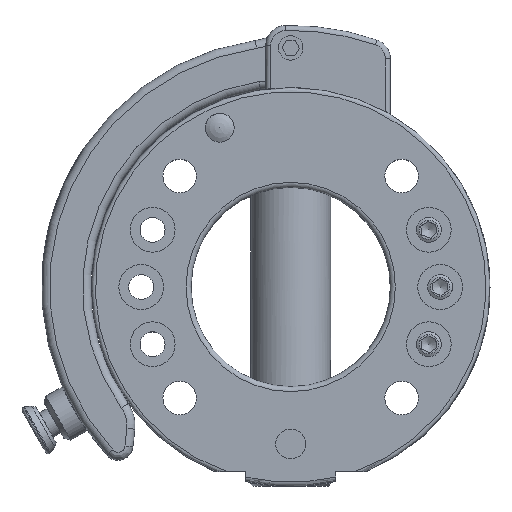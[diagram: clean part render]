
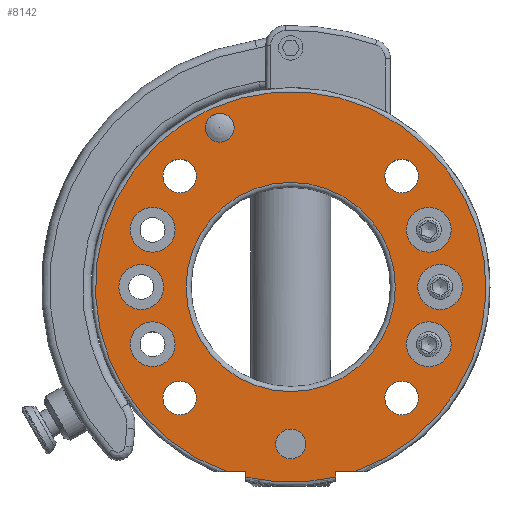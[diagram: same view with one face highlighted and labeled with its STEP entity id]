
A CAD part, top view. The second image highlights one B-rep face of the part: STEP entity #8142.
In plain terms, the highlighted planar face has unit normal (0, 0, 1).
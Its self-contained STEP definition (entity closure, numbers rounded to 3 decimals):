
#189=FACE_BOUND('',#2679,.T.);
#190=FACE_BOUND('',#2680,.T.);
#191=FACE_BOUND('',#2681,.T.);
#192=FACE_BOUND('',#2682,.T.);
#193=FACE_BOUND('',#2683,.T.);
#194=FACE_BOUND('',#2684,.T.);
#195=FACE_BOUND('',#2685,.T.);
#196=FACE_BOUND('',#2686,.T.);
#197=FACE_BOUND('',#2687,.T.);
#198=FACE_BOUND('',#2688,.T.);
#199=FACE_BOUND('',#2689,.T.);
#200=FACE_BOUND('',#2690,.T.);
#201=FACE_BOUND('',#2691,.T.);
#354=PLANE('',#8900);
#811=LINE('',#32917,#1254);
#816=LINE('',#32983,#1259);
#820=LINE('',#33015,#1263);
#822=LINE('',#33034,#1265);
#1254=VECTOR('',#10698,10.);
#1259=VECTOR('',#10715,10.);
#1263=VECTOR('',#10725,10.);
#1265=VECTOR('',#10737,10.);
#1592=CIRCLE('',#8809,4.5);
#1594=CIRCLE('',#8813,4.5);
#1596=CIRCLE('',#8817,4.5);
#1599=CIRCLE('',#8822,4.5);
#1602=CIRCLE('',#8827,4.5);
#1604=CIRCLE('',#8831,4.5);
#1607=CIRCLE('',#8836,2.9);
#1608=CIRCLE('',#8844,3.);
#1613=CIRCLE('',#8853,3.375);
#1617=CIRCLE('',#8860,3.375);
#1621=CIRCLE('',#8867,3.375);
#1625=CIRCLE('',#8874,3.375);
#1627=CIRCLE('',#8879,39.2);
#1628=CIRCLE('',#8883,39.2);
#1636=CIRCLE('',#8901,21.);
#2136=FACE_OUTER_BOUND('',#2678,.T.);
#2678=EDGE_LOOP('',(#6973,#6974,#6975,#6976,#6977,#6978));
#2679=EDGE_LOOP('',(#6979));
#2680=EDGE_LOOP('',(#6980));
#2681=EDGE_LOOP('',(#6981));
#2682=EDGE_LOOP('',(#6982));
#2683=EDGE_LOOP('',(#6983));
#2684=EDGE_LOOP('',(#6984));
#2685=EDGE_LOOP('',(#6985));
#2686=EDGE_LOOP('',(#6986));
#2687=EDGE_LOOP('',(#6987));
#2688=EDGE_LOOP('',(#6988));
#2689=EDGE_LOOP('',(#6989));
#2690=EDGE_LOOP('',(#6990));
#2691=EDGE_LOOP('',(#6991));
#3676=VERTEX_POINT('',#32757);
#3678=VERTEX_POINT('',#32764);
#3680=VERTEX_POINT('',#32771);
#3683=VERTEX_POINT('',#32780);
#3686=VERTEX_POINT('',#32789);
#3688=VERTEX_POINT('',#32796);
#3691=VERTEX_POINT('',#32805);
#3692=VERTEX_POINT('',#32821);
#3697=VERTEX_POINT('',#32837);
#3701=VERTEX_POINT('',#32850);
#3705=VERTEX_POINT('',#32863);
#3709=VERTEX_POINT('',#32876);
#3712=VERTEX_POINT('',#32887);
#3713=VERTEX_POINT('',#32900);
#3714=VERTEX_POINT('',#32916);
#3718=VERTEX_POINT('',#32936);
#3719=VERTEX_POINT('',#32947);
#3723=VERTEX_POINT('',#32982);
#3731=VERTEX_POINT('',#33044);
#4737=EDGE_CURVE('',#3676,#3676,#1592,.T.);
#4740=EDGE_CURVE('',#3678,#3678,#1594,.T.);
#4743=EDGE_CURVE('',#3680,#3680,#1596,.T.);
#4747=EDGE_CURVE('',#3683,#3683,#1599,.T.);
#4751=EDGE_CURVE('',#3686,#3686,#1602,.T.);
#4754=EDGE_CURVE('',#3688,#3688,#1604,.T.);
#4758=EDGE_CURVE('',#3691,#3691,#1607,.T.);
#4766=EDGE_CURVE('',#3692,#3692,#1608,.T.);
#4774=EDGE_CURVE('',#3697,#3697,#1613,.T.);
#4780=EDGE_CURVE('',#3701,#3701,#1617,.T.);
#4786=EDGE_CURVE('',#3705,#3705,#1621,.T.);
#4792=EDGE_CURVE('',#3709,#3709,#1625,.T.);
#4797=EDGE_CURVE('',#3712,#3713,#1627,.T.);
#4799=EDGE_CURVE('',#3714,#3713,#811,.T.);
#4804=EDGE_CURVE('',#3718,#3719,#1628,.T.);
#4811=EDGE_CURVE('',#3723,#3719,#816,.T.);
#4818=EDGE_CURVE('',#3712,#3723,#820,.T.);
#4823=EDGE_CURVE('',#3718,#3714,#822,.T.);
#4828=EDGE_CURVE('',#3731,#3731,#1636,.T.);
#6973=ORIENTED_EDGE('',*,*,#4797,.F.);
#6974=ORIENTED_EDGE('',*,*,#4818,.T.);
#6975=ORIENTED_EDGE('',*,*,#4811,.T.);
#6976=ORIENTED_EDGE('',*,*,#4804,.F.);
#6977=ORIENTED_EDGE('',*,*,#4823,.T.);
#6978=ORIENTED_EDGE('',*,*,#4799,.T.);
#6979=ORIENTED_EDGE('',*,*,#4737,.T.);
#6980=ORIENTED_EDGE('',*,*,#4740,.T.);
#6981=ORIENTED_EDGE('',*,*,#4743,.T.);
#6982=ORIENTED_EDGE('',*,*,#4747,.T.);
#6983=ORIENTED_EDGE('',*,*,#4751,.T.);
#6984=ORIENTED_EDGE('',*,*,#4754,.T.);
#6985=ORIENTED_EDGE('',*,*,#4758,.T.);
#6986=ORIENTED_EDGE('',*,*,#4766,.T.);
#6987=ORIENTED_EDGE('',*,*,#4774,.T.);
#6988=ORIENTED_EDGE('',*,*,#4780,.T.);
#6989=ORIENTED_EDGE('',*,*,#4786,.T.);
#6990=ORIENTED_EDGE('',*,*,#4792,.T.);
#6991=ORIENTED_EDGE('',*,*,#4828,.F.);
#8142=ADVANCED_FACE('',(#2136,#189,#190,#191,#192,#193,#194,#195,#196,#197,
#198,#199,#200,#201),#354,.T.);
#8809=AXIS2_PLACEMENT_3D('',#32758,#10528,#10529);
#8813=AXIS2_PLACEMENT_3D('',#32765,#10537,#10538);
#8817=AXIS2_PLACEMENT_3D('',#32772,#10546,#10547);
#8822=AXIS2_PLACEMENT_3D('',#32781,#10557,#10558);
#8827=AXIS2_PLACEMENT_3D('',#32790,#10568,#10569);
#8831=AXIS2_PLACEMENT_3D('',#32797,#10577,#10578);
#8836=AXIS2_PLACEMENT_3D('',#32806,#10588,#10589);
#8844=AXIS2_PLACEMENT_3D('',#32822,#10611,#10612);
#8853=AXIS2_PLACEMENT_3D('',#32839,#10632,#10633);
#8860=AXIS2_PLACEMENT_3D('',#32852,#10648,#10649);
#8867=AXIS2_PLACEMENT_3D('',#32865,#10664,#10665);
#8874=AXIS2_PLACEMENT_3D('',#32878,#10680,#10681);
#8879=AXIS2_PLACEMENT_3D('',#32901,#10692,#10693);
#8883=AXIS2_PLACEMENT_3D('',#32948,#10703,#10704);
#8900=AXIS2_PLACEMENT_3D('',#33043,#10748,#10749);
#8901=AXIS2_PLACEMENT_3D('',#33045,#10750,#10751);
#10528=DIRECTION('center_axis',(0.,0.,-1.));
#10529=DIRECTION('ref_axis',(1.,0.,0.));
#10537=DIRECTION('center_axis',(0.,0.,-1.));
#10538=DIRECTION('ref_axis',(1.,0.,0.));
#10546=DIRECTION('center_axis',(0.,0.,-1.));
#10547=DIRECTION('ref_axis',(1.,0.,0.));
#10557=DIRECTION('center_axis',(0.,0.,-1.));
#10558=DIRECTION('ref_axis',(1.,0.,0.));
#10568=DIRECTION('center_axis',(0.,0.,-1.));
#10569=DIRECTION('ref_axis',(1.,0.,0.));
#10577=DIRECTION('center_axis',(0.,0.,-1.));
#10578=DIRECTION('ref_axis',(1.,0.,0.));
#10588=DIRECTION('center_axis',(0.,0.,-1.));
#10589=DIRECTION('ref_axis',(1.,0.,0.));
#10611=DIRECTION('center_axis',(0.,0.,-1.));
#10612=DIRECTION('ref_axis',(1.,0.,0.));
#10632=DIRECTION('center_axis',(0.,0.,-1.));
#10633=DIRECTION('ref_axis',(-1.,0.,0.));
#10648=DIRECTION('center_axis',(0.,0.,-1.));
#10649=DIRECTION('ref_axis',(-1.,0.,0.));
#10664=DIRECTION('center_axis',(0.,0.,-1.));
#10665=DIRECTION('ref_axis',(-1.,0.,0.));
#10680=DIRECTION('center_axis',(0.,0.,-1.));
#10681=DIRECTION('ref_axis',(-1.,0.,0.));
#10692=DIRECTION('center_axis',(0.,0.,-1.));
#10693=DIRECTION('ref_axis',(0.,1.,0.));
#10698=DIRECTION('',(1.,0.,0.));
#10703=DIRECTION('center_axis',(0.,0.,-1.));
#10704=DIRECTION('ref_axis',(0.,-1.,0.));
#10715=DIRECTION('',(0.,-1.,0.));
#10725=DIRECTION('',(1.,0.,0.));
#10737=DIRECTION('',(0.,1.,0.));
#10748=DIRECTION('center_axis',(0.,0.,1.));
#10749=DIRECTION('ref_axis',(1.,0.,0.));
#10750=DIRECTION('center_axis',(0.,0.,1.));
#10751=DIRECTION('ref_axis',(-1.,0.,0.));
#32757=CARTESIAN_POINT('',(23.216,11.481,28.5));
#32758=CARTESIAN_POINT('Origin',(27.716,11.481,28.5));
#32764=CARTESIAN_POINT('',(23.216,-11.481,28.5));
#32765=CARTESIAN_POINT('Origin',(27.716,-11.481,28.5));
#32771=CARTESIAN_POINT('',(-32.216,-11.481,28.5));
#32772=CARTESIAN_POINT('Origin',(-27.716,-11.481,28.5));
#32780=CARTESIAN_POINT('',(-32.216,11.481,28.5));
#32781=CARTESIAN_POINT('Origin',(-27.716,11.481,28.5));
#32789=CARTESIAN_POINT('',(25.5,0.,28.5));
#32790=CARTESIAN_POINT('Origin',(30.,0.,28.5));
#32796=CARTESIAN_POINT('',(-34.5,0.,28.5));
#32797=CARTESIAN_POINT('Origin',(-30.,0.,28.5));
#32805=CARTESIAN_POINT('',(-17.136,31.974,28.5));
#32806=CARTESIAN_POINT('Origin',(-14.236,31.974,28.5));
#32821=CARTESIAN_POINT('',(-3.,-31.5,28.5));
#32822=CARTESIAN_POINT('Origin',(0.,-31.5,28.5));
#32837=CARTESIAN_POINT('',(-18.899,22.274,28.5));
#32839=CARTESIAN_POINT('Origin',(-22.274,22.274,28.5));
#32850=CARTESIAN_POINT('',(25.649,-22.274,28.5));
#32852=CARTESIAN_POINT('Origin',(22.274,-22.274,28.5));
#32863=CARTESIAN_POINT('',(25.649,22.274,28.5));
#32865=CARTESIAN_POINT('Origin',(22.274,22.274,28.5));
#32876=CARTESIAN_POINT('',(-18.899,-22.274,28.5));
#32878=CARTESIAN_POINT('Origin',(-22.274,-22.274,28.5));
#32887=CARTESIAN_POINT('',(-12.948,-37.,28.5));
#32900=CARTESIAN_POINT('',(12.948,-37.,28.5));
#32901=CARTESIAN_POINT('Origin',(0.,0.,28.5));
#32916=CARTESIAN_POINT('',(9.,-37.,28.5));
#32917=CARTESIAN_POINT('',(4.5,-37.,28.5));
#32936=CARTESIAN_POINT('',(9.,-38.153,28.5));
#32947=CARTESIAN_POINT('',(-9.,-38.153,28.5));
#32948=CARTESIAN_POINT('Origin',(0.,0.,28.5));
#32982=CARTESIAN_POINT('',(-9.,-37.,28.5));
#32983=CARTESIAN_POINT('',(-9.,-18.5,28.5));
#33015=CARTESIAN_POINT('',(-36.5,-37.,28.5));
#33034=CARTESIAN_POINT('',(9.,-20.,28.5));
#33043=CARTESIAN_POINT('Origin',(0.,0.,28.5));
#33044=CARTESIAN_POINT('',(21.,0.,28.5));
#33045=CARTESIAN_POINT('Origin',(0.,0.,28.5));
